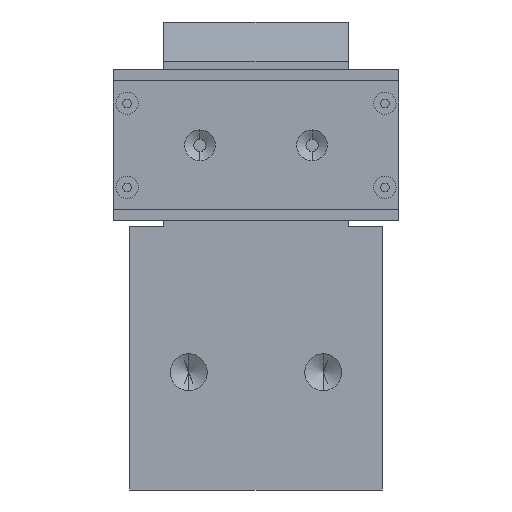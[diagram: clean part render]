
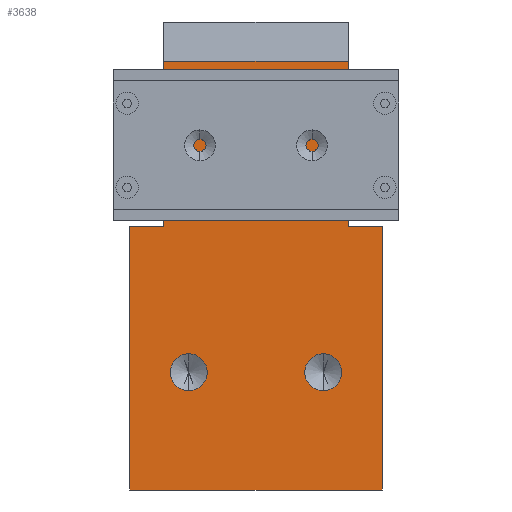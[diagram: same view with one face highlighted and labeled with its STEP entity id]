
A CAD part, left-side view. The second image highlights one B-rep face of the part: STEP entity #3638.
In plain terms, the highlighted planar face has unit normal (-1, 0, 0).
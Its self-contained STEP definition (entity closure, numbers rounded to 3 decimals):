
#230 = EDGE_CURVE ( 'NONE', #3942, #240, #4732, .T. ) ;
#240 = VERTEX_POINT ( 'NONE', #4782 ) ;
#251 = ORIENTED_EDGE ( 'NONE', *, *, #3701, .F. ) ;
#276 = ORIENTED_EDGE ( 'NONE', *, *, #3972, .F. ) ;
#426 = VERTEX_POINT ( 'NONE', #5168 ) ;
#467 = VECTOR ( 'NONE', #523, 1000. ) ;
#468 = CARTESIAN_POINT ( 'NONE',  ( -58., 38.95, 76.5 ) ) ;
#477 = AXIS2_PLACEMENT_3D ( 'NONE', #517, #516, #515 ) ;
#515 = DIRECTION ( 'NONE',  ( 0., 0., 1. ) ) ;
#516 = DIRECTION ( 'NONE',  ( -1., 0., 0. ) ) ;
#517 = CARTESIAN_POINT ( 'NONE',  ( -58., 10.5, 21. ) ) ;
#523 = DIRECTION ( 'NONE',  ( 0., 1., 0. ) ) ;
#524 = CIRCLE ( 'NONE', #477, 3.3 ) ;
#526 = LINE ( 'NONE', #468, #467 ) ;
#542 = FACE_OUTER_BOUND ( 'NONE', #3633, .T. ) ;
#545 = CARTESIAN_POINT ( 'NONE',  ( -58., 34.5, 21. ) ) ;
#562 = CARTESIAN_POINT ( 'NONE',  ( -58., 6.05, 83.5 ) ) ;
#563 = LINE ( 'NONE', #562, #611 ) ;
#565 = FACE_BOUND ( 'NONE', #3637, .T. ) ;
#567 = AXIS2_PLACEMENT_3D ( 'NONE', #616, #615, #614 ) ;
#568 = FACE_BOUND ( 'NONE', #3660, .T. ) ;
#569 = CARTESIAN_POINT ( 'NONE',  ( -58., 6.05, 47. ) ) ;
#575 = CIRCLE ( 'NONE', #567, 3.3 ) ;
#576 = CARTESIAN_POINT ( 'NONE',  ( -58., 10.5, 24.3 ) ) ;
#584 = DIRECTION ( 'NONE',  ( 0., 0., 1. ) ) ;
#585 = DIRECTION ( 'NONE',  ( -1., 0., 0. ) ) ;
#586 = AXIS2_PLACEMENT_3D ( 'NONE', #545, #585, #584 ) ;
#589 = CIRCLE ( 'NONE', #586, 3.3 ) ;
#591 = PLANE ( 'NONE',  #622 ) ;
#610 = DIRECTION ( 'NONE',  ( 0., 0., -1. ) ) ;
#611 = VECTOR ( 'NONE', #610, 1000. ) ;
#614 = DIRECTION ( 'NONE',  ( 0., 0., 1. ) ) ;
#615 = DIRECTION ( 'NONE',  ( -1., 0., 0. ) ) ;
#616 = CARTESIAN_POINT ( 'NONE',  ( -58., 10.5, 21. ) ) ;
#619 = DIRECTION ( 'NONE',  ( 0., 0., -1. ) ) ;
#620 = DIRECTION ( 'NONE',  ( 1., 0., 0. ) ) ;
#621 = CARTESIAN_POINT ( 'NONE',  ( -58., 0., 47. ) ) ;
#622 = AXIS2_PLACEMENT_3D ( 'NONE', #621, #620, #619 ) ;
#636 = CARTESIAN_POINT ( 'NONE',  ( -58., 6.05, 76.5 ) ) ;
#647 = CARTESIAN_POINT ( 'NONE',  ( -58., 38.95, 76.5 ) ) ;
#668 = DIRECTION ( 'NONE',  ( 0., 0., -1. ) ) ;
#669 = VECTOR ( 'NONE', #668, 1000. ) ;
#690 = CARTESIAN_POINT ( 'NONE',  ( -58., 38.95, 83.5 ) ) ;
#691 = LINE ( 'NONE', #690, #669 ) ;
#696 = VERTEX_POINT ( 'NONE', #5211 ) ;
#698 = ORIENTED_EDGE ( 'NONE', *, *, #3683, .T. ) ;
#717 = LINE ( 'NONE', #732, #769 ) ;
#732 = CARTESIAN_POINT ( 'NONE',  ( -58., 0., 47. ) ) ;
#768 = DIRECTION ( 'NONE',  ( 0., 0., -1. ) ) ;
#769 = VECTOR ( 'NONE', #768, 1000. ) ;
#1086 = CARTESIAN_POINT ( 'NONE',  ( -58., 45., 47. ) ) ;
#1112 = DIRECTION ( 'NONE',  ( 0., 0., -1. ) ) ;
#1113 = VECTOR ( 'NONE', #1112, 1000. ) ;
#1115 = CARTESIAN_POINT ( 'NONE',  ( -58., 45., 47. ) ) ;
#1119 = LINE ( 'NONE', #1115, #1113 ) ;
#1171 = CARTESIAN_POINT ( 'NONE',  ( -58., 45., 0. ) ) ;
#1200 = CARTESIAN_POINT ( 'NONE',  ( -58., 0., 47. ) ) ;
#1201 = LINE ( 'NONE', #1200, #1243 ) ;
#1242 = DIRECTION ( 'NONE',  ( 0., -1., 0. ) ) ;
#1243 = VECTOR ( 'NONE', #1242, 1000. ) ;
#1278 = CARTESIAN_POINT ( 'NONE',  ( -58., 38.95, 47. ) ) ;
#1336 = DIRECTION ( 'NONE',  ( 0., -1., 0. ) ) ;
#1337 = VECTOR ( 'NONE', #1336, 1000. ) ;
#1341 = CARTESIAN_POINT ( 'NONE',  ( -58., 0., 47. ) ) ;
#1342 = LINE ( 'NONE', #1341, #1337 ) ;
#1513 = EDGE_CURVE ( 'NONE', #3669, #3670, #526, .T. ) ;
#1515 = ORIENTED_EDGE ( 'NONE', *, *, #3629, .F. ) ;
#1516 = EDGE_CURVE ( 'NONE', #3634, #696, #524, .T. ) ;
#1517 = ORIENTED_EDGE ( 'NONE', *, *, #3644, .F. ) ;
#1836 = CARTESIAN_POINT ( 'NONE',  ( -58., 0., 47. ) ) ;
#2075 = DIRECTION ( 'NONE',  ( 0., 0., 1. ) ) ;
#2076 = DIRECTION ( 'NONE',  ( -1., 0., 0. ) ) ;
#2077 = CARTESIAN_POINT ( 'NONE',  ( -58., 34.5, 21. ) ) ;
#2081 = AXIS2_PLACEMENT_3D ( 'NONE', #2077, #2076, #2075 ) ;
#2098 = CIRCLE ( 'NONE', #2081, 3.3 ) ;
#2158 = CARTESIAN_POINT ( 'NONE',  ( -58., 34.5, 24.3 ) ) ;
#3627 = ORIENTED_EDGE ( 'NONE', *, *, #1516, .F. ) ;
#3628 = ORIENTED_EDGE ( 'NONE', *, *, #5278, .F. ) ;
#3629 = EDGE_CURVE ( 'NONE', #5303, #426, #589, .T. ) ;
#3633 = EDGE_LOOP ( 'NONE', ( #1517, #3650, #698, #3691, #5632, #5633, #251, #276 ) ) ;
#3634 = VERTEX_POINT ( 'NONE', #576 ) ;
#3636 = VERTEX_POINT ( 'NONE', #569 ) ;
#3637 = EDGE_LOOP ( 'NONE', ( #3627, #3639 ) ) ;
#3638 = ADVANCED_FACE ( 'NONE', ( #568, #565, #542 ), #591, .F. ) ;
#3639 = ORIENTED_EDGE ( 'NONE', *, *, #3642, .F. ) ;
#3642 = EDGE_CURVE ( 'NONE', #696, #3634, #575, .T. ) ;
#3644 = EDGE_CURVE ( 'NONE', #3669, #3636, #563, .T. ) ;
#3650 = ORIENTED_EDGE ( 'NONE', *, *, #1513, .T. ) ;
#3660 = EDGE_LOOP ( 'NONE', ( #1515, #3628 ) ) ;
#3669 = VERTEX_POINT ( 'NONE', #636 ) ;
#3670 = VERTEX_POINT ( 'NONE', #647 ) ;
#3683 = EDGE_CURVE ( 'NONE', #3670, #4060, #691, .T. ) ;
#3691 = ORIENTED_EDGE ( 'NONE', *, *, #4058, .F. ) ;
#3701 = EDGE_CURVE ( 'NONE', #4377, #240, #717, .T. ) ;
#3912 = VERTEX_POINT ( 'NONE', #1086 ) ;
#3930 = EDGE_CURVE ( 'NONE', #3912, #3942, #1119, .T. ) ;
#3942 = VERTEX_POINT ( 'NONE', #1171 ) ;
#3972 = EDGE_CURVE ( 'NONE', #3636, #4377, #1201, .T. ) ;
#4058 = EDGE_CURVE ( 'NONE', #3912, #4060, #1342, .T. ) ;
#4060 = VERTEX_POINT ( 'NONE', #1278 ) ;
#4377 = VERTEX_POINT ( 'NONE', #1836 ) ;
#4729 = DIRECTION ( 'NONE',  ( 0., -1., 0. ) ) ;
#4730 = VECTOR ( 'NONE', #4729, 1000. ) ;
#4731 = CARTESIAN_POINT ( 'NONE',  ( -58., 0., 0. ) ) ;
#4732 = LINE ( 'NONE', #4731, #4730 ) ;
#4782 = CARTESIAN_POINT ( 'NONE',  ( -58., 0., 0. ) ) ;
#5168 = CARTESIAN_POINT ( 'NONE',  ( -58., 34.5, 17.7 ) ) ;
#5211 = CARTESIAN_POINT ( 'NONE',  ( -58., 10.5, 17.7 ) ) ;
#5278 = EDGE_CURVE ( 'NONE', #426, #5303, #2098, .T. ) ;
#5303 = VERTEX_POINT ( 'NONE', #2158 ) ;
#5632 = ORIENTED_EDGE ( 'NONE', *, *, #3930, .T. ) ;
#5633 = ORIENTED_EDGE ( 'NONE', *, *, #230, .T. ) ;
